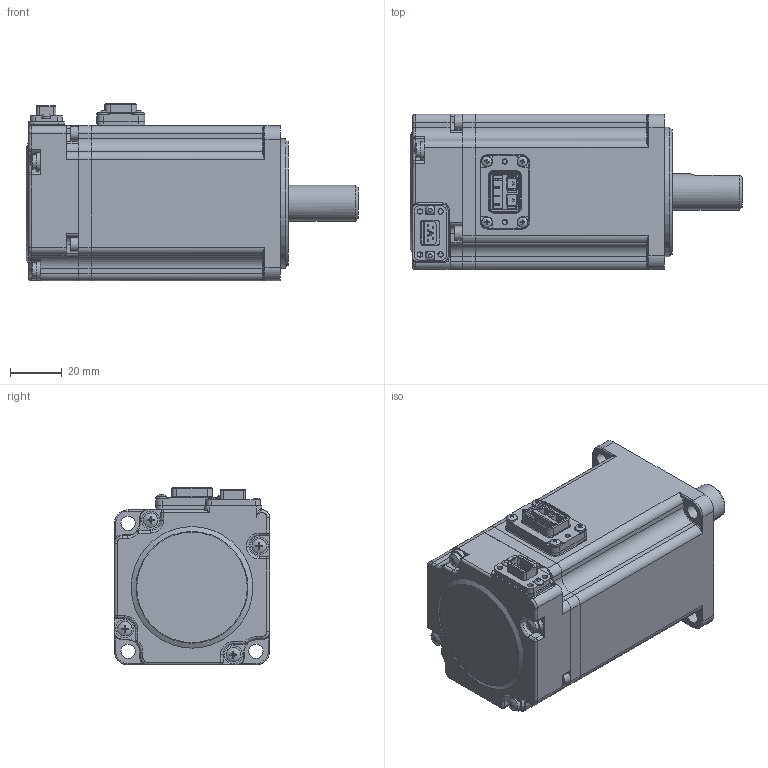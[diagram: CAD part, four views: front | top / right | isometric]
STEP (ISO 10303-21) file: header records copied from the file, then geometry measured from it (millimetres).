
FILE_DESCRIPTION(('FreeCAD Model'),'2;1');
FILE_NAME('Open CASCADE Shape Model','2025-03-17T12:30:58',('Author'),( ''),'Open CASCADE STEP processor 7.6','FreeCAD','Unknown');
FILE_SCHEMA(('AUTOMOTIVE_DESIGN { 1 0 10303 214 1 1 1 1 }'));
Length unit declared in the file: millimetre
Products named in the file (33): PSM6S-60CS30B3-20P4; PSM6S-60CS30B3-20P005; PSM6S-60CS30B3-20P006; PSM6S-60CS30B3-20P007; PSM6S-60CS30B3-20P008; PSM6S-60CS30B3-20P009; PSM6S-60CS30B3-20P010; PSM6S-60CS30B3-20P011; PSM6S-60CS30B3-20P012; PSM6S-60CS30B3-20P013; PSM6S-60CS30B3-20P014; PSM6S-60CS30B3-20P015; PSM6S-60CS30B3-20P016; PSM6S-60CS30B3-20P017; PSM6S-60CS30B3-20P018; PSM6S-60CS30B3-20P019; PSM6S-60CS30B3-20P020; PSM6S-60CS30B3-20P021; PSM6S-60CS30B3-20P022; PSM6S-60CS30B3-20P023; PSM6S-60CS30B3-20P024; PSM6S-60CS30B3-20P025; PSM6S-60CS30B3-20P026; PSM6S-60CS30B3-20P027; PSM6S-60CS30B3-20P028; PSM6S-60CS30B3-20P029; PSM6S-60CS30B3-20P030; PSM6S-60CS30B3-20P031; PSM6S-60CS30B3-20P032; PSM6S-60CS30B3-20P033; PSM6S-60CS30B3-20P034; PSM6S-60CS30B3-20P035; PSM6S-60CS30B3-20P036
Assembly tree (32 placements, depth 2):
  PSM6S-60CS30B3-20P4
    PSM6S-60CS30B3-20P005
    PSM6S-60CS30B3-20P006
    PSM6S-60CS30B3-20P007
    PSM6S-60CS30B3-20P008
    PSM6S-60CS30B3-20P009
    PSM6S-60CS30B3-20P010
    PSM6S-60CS30B3-20P011
    PSM6S-60CS30B3-20P012
    PSM6S-60CS30B3-20P013
    PSM6S-60CS30B3-20P014
    PSM6S-60CS30B3-20P015
    PSM6S-60CS30B3-20P016
    PSM6S-60CS30B3-20P017
    PSM6S-60CS30B3-20P018
    PSM6S-60CS30B3-20P019
    PSM6S-60CS30B3-20P020
    PSM6S-60CS30B3-20P021
    PSM6S-60CS30B3-20P022
    PSM6S-60CS30B3-20P023
    PSM6S-60CS30B3-20P024
    PSM6S-60CS30B3-20P025
    PSM6S-60CS30B3-20P026
    PSM6S-60CS30B3-20P027
    PSM6S-60CS30B3-20P028
    PSM6S-60CS30B3-20P029
    PSM6S-60CS30B3-20P030
    PSM6S-60CS30B3-20P031
    PSM6S-60CS30B3-20P032
    PSM6S-60CS30B3-20P033
    PSM6S-60CS30B3-20P034
    PSM6S-60CS30B3-20P035
    PSM6S-60CS30B3-20P036
Bounding box: 128.4 x 60 x 68.8 mm (x, y, z)
Surface area: 37320.3 mm2 (no closed solid volume)
Topology: 0 solids, 32 shells, 724 faces, 2332 edges, 1603 vertices
Faces by surface type: plane 394, cylinder 220, torus 55, bspline 22, sphere 16, cone 15, revolution 2
Full cylindrical faces by diameter (mm): 1.6 x2, 2.1 x4, 3.5 x2, 4 x4, 4.2 x1, 5.5 x8, 5.6 x4, 7 x4, 14 x1, 15 x1, 28 x1, 50 x1
Entity records: 27592 total; most frequent: CARTESIAN_POINT 6308, DIRECTION 4411, ORIENTED_EDGE 3834, EDGE_CURVE 2316, VERTEX_POINT 1603, AXIS2_PLACEMENT_3D 1494, LINE 1421, VECTOR 1421
